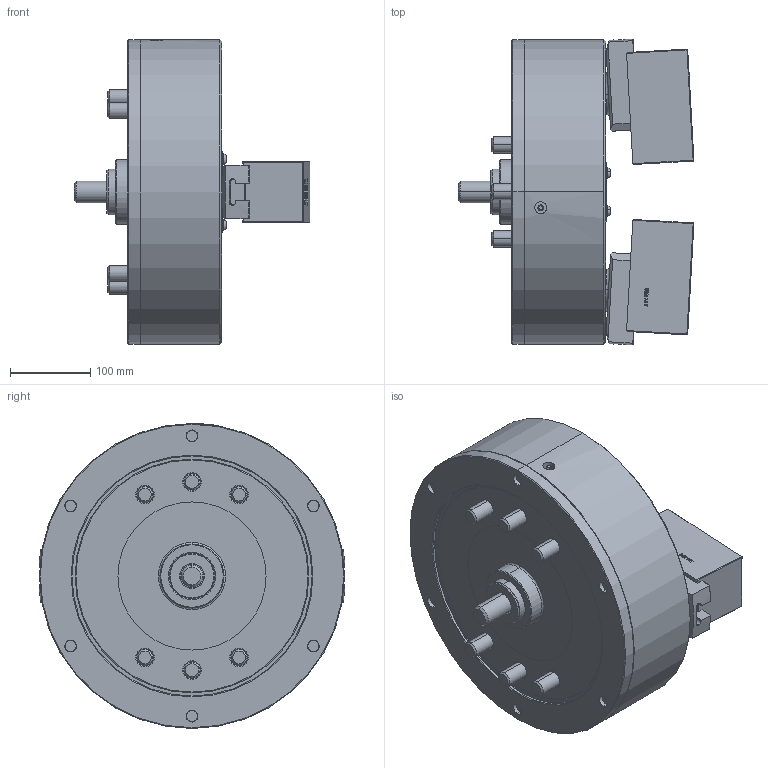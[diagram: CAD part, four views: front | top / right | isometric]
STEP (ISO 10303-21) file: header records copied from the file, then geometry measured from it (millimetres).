
FILE_DESCRIPTION (( 'STEP AP214' ), '1' );
FILE_NAME ('PWT15_UC_OD.STEP', '2019-10-23T01:35:05', ( '' ), ( '' ), 'SwSTEP 2.0', 'SolidWorks 2017', '' );
FILE_SCHEMA (( 'AUTOMOTIVE_DESIGN' ));
Length unit declared in the file: millimetre
Products named in the file (5): 結合_OD; 0030120030; 61P422878; 61P334597; PWT15_UC_OD
Assembly tree (9 placements, depth 2):
  PWT15_UC_OD
    61P334597  x2
    61P422878  x2
    0030120030  x4
    結合_OD
Bounding box: 294.68 x 382.21 x 381 mm (x, y, z)
Volume: 14914700.8 mm3; surface area: 758874.9 mm2
Topology: 9 solids, 10 shells, 1641 faces, 4017 edges, 2516 vertices
Faces by surface type: plane 873, cone 269, cylinder 234, bspline 209, torus 52, sphere 4
Entity records: 47078 total; most frequent: CARTESIAN_POINT 15708, ORIENTED_EDGE 6678, DIRECTION 5950, EDGE_CURVE 3339, VERTEX_POINT 2103, AXIS2_PLACEMENT_3D 1985, LINE 1980, VECTOR 1980
